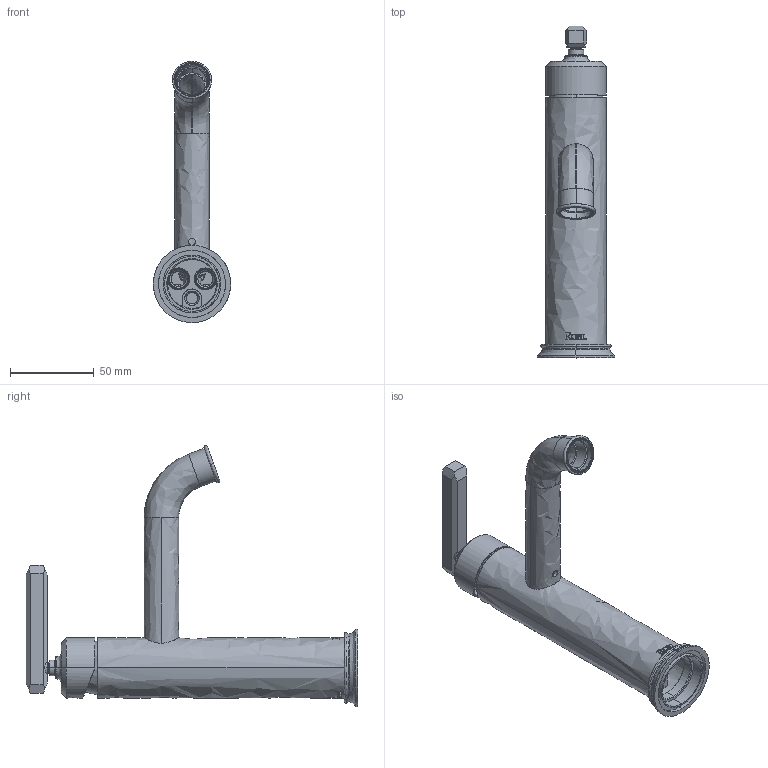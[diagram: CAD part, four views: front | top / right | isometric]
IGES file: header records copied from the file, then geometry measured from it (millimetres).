
Start section: SolidWorks IGES file using analytic representation for surfaces
Global section: file name: C:\Users\arao\Desktop\Project-Aricia\ADHOC-02083-6351 IGS files updated\sku_ap01d1lseries_igs.IGS; native system: SolidWorks 2025; preprocessor: SolidWorks 2025; author: arao; date: 251029.135938; units: millimetre
Bounding box: 45.99 x 197.5 x 155.44 mm (x, y, z)
Volume: 22747.9 mm3; surface area: 71047.6 mm2
Topology: 6 solids, 6 shells, 1136 faces, 9425 edges, 9073 vertices
Faces by surface type: bspline 1136
